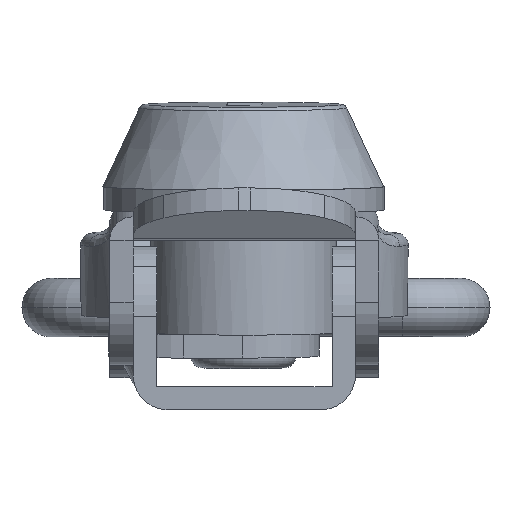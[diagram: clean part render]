
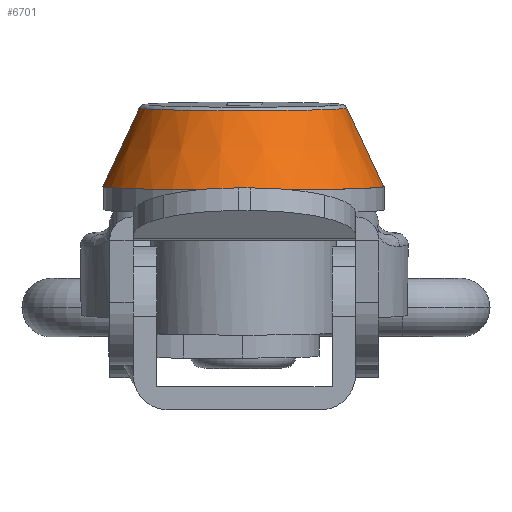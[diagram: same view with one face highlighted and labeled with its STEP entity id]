
A CAD part, left-side view. The second image highlights one B-rep face of the part: STEP entity #6701.
In plain terms, the highlighted conical face has half-angle 25 degrees and reference radius 12 mm.
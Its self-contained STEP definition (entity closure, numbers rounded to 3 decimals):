
#6651=CARTESIAN_POINT('',(0.1,-5.908,-1.0));
#6652=DIRECTION('',(0.0,0.0,1.0));
#6653=DIRECTION('',(1.0,0.0,0.0));
#6654=AXIS2_PLACEMENT_3D('',#6651,#6652,#6653);
#6655=CONICAL_SURFACE('',#6654,12.0,25.0);
#6656=CARTESIAN_POINT('',(12.1,-5.908,-1.0));
#6657=VERTEX_POINT('',#6656);
#6658=CARTESIAN_POINT('',(8.97,-5.908,-7.711));
#6659=VERTEX_POINT('',#6658);
#6660=CARTESIAN_POINT('',(12.1,-5.908,-1.0));
#6661=DIRECTION('',(-0.423,0.,-0.906));
#6662=VECTOR('',#6661,7.405);
#6663=LINE('',#6660,#6662);
#6664=EDGE_CURVE('',#6657,#6659,#6663,.T.);
#6665=ORIENTED_EDGE('',*,*,#6664,.F.);
#6666=CARTESIAN_POINT('',(0.053,-17.908,-1.0));
#6667=VERTEX_POINT('',#6666);
#6668=CARTESIAN_POINT('',(0.1,-5.908,-1.0));
#6669=DIRECTION('',(0.0,0.0,-1.0));
#6670=DIRECTION('',(1.0,0.0,0.0));
#6671=AXIS2_PLACEMENT_3D('',#6668,#6669,#6670);
#6672=CIRCLE('',#6671,12.0);
#6673=EDGE_CURVE('',#6657,#6667,#6672,.T.);
#6674=ORIENTED_EDGE('',*,*,#6673,.T.);
#6675=CARTESIAN_POINT('',(-11.9,-5.908,-1.0));
#6676=VERTEX_POINT('',#6675);
#6677=CARTESIAN_POINT('',(0.1,-5.908,-1.0));
#6678=DIRECTION('',(0.0,0.0,1.0));
#6679=DIRECTION('',(1.0,0.0,0.0));
#6680=AXIS2_PLACEMENT_3D('',#6677,#6678,#6679);
#6681=CIRCLE('',#6680,12.0);
#6682=EDGE_CURVE('',#6676,#6667,#6681,.T.);
#6683=ORIENTED_EDGE('',*,*,#6682,.F.);
#6684=CARTESIAN_POINT('',(-8.77,-5.908,-7.711));
#6685=VERTEX_POINT('',#6684);
#6686=CARTESIAN_POINT('',(-8.77,-5.908,-7.711));
#6687=DIRECTION('',(-0.423,0.,0.906));
#6688=VECTOR('',#6687,7.405);
#6689=LINE('',#6686,#6688);
#6690=EDGE_CURVE('',#6685,#6676,#6689,.T.);
#6691=ORIENTED_EDGE('',*,*,#6690,.F.);
#6692=CARTESIAN_POINT('',(0.1,-5.908,-7.711));
#6693=DIRECTION('',(0.0,0.0,-1.0));
#6694=DIRECTION('',(-1.0,0.0,0.0));
#6695=AXIS2_PLACEMENT_3D('',#6692,#6693,#6694);
#6696=CIRCLE('',#6695,8.87);
#6697=EDGE_CURVE('',#6659,#6685,#6696,.T.);
#6698=ORIENTED_EDGE('',*,*,#6697,.F.);
#6699=EDGE_LOOP('',(#6665,#6674,#6683,#6691,#6698));
#6700=FACE_OUTER_BOUND('',#6699,.T.);
#6701=ADVANCED_FACE('',(#6700),#6655,.T.);
